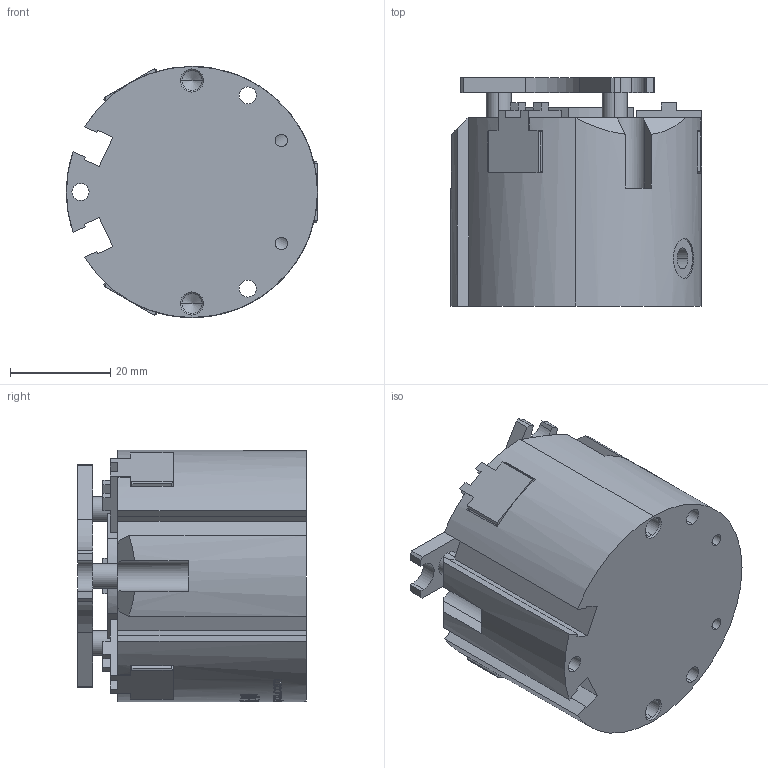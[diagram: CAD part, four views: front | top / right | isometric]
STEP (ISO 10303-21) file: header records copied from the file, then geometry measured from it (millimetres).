
FILE_DESCRIPTION (( 'STEP AP203' ), '1' );
FILE_NAME ('MAC3-50-P-原始檔-組合-W106.04.13.STEP', '2017-04-13T08:02:00', ( 'DanyaoCAD' ), ( '' ), 'SwSTEP 2.0', 'SolidWorks 2016', '' );
FILE_SCHEMA (( 'CONFIG_CONTROL_DESIGN' ));
Length unit declared in the file: millimetre
Products named in the file (6): Griffa; Coperchio; Spintore; Piattello; Corpo; MAC3-50-P-原始檔-組合-W106.04.13
Assembly tree (7 placements, depth 2):
  MAC3-50-P-原始檔-組合-W106.04.13
    Griffa  x3
    Coperchio
    Spintore
    Piattello
    Corpo
Bounding box: 50 x 45.5 x 50 mm (x, y, z)
Volume: 69679.8 mm3; surface area: 23494.1 mm2
Topology: 7 solids, 7 shells, 1126 faces, 3136 edges, 2064 vertices
Faces by surface type: bspline 665, plane 287, cylinder 138, cone 36
Entity records: 73762 total; most frequent: CARTESIAN_POINT 52067, ORIENTED_EDGE 5808, EDGE_CURVE 2904, B_SPLINE_CURVE_WITH_KNOTS 2045, VERTEX_POINT 1928, DIRECTION 1899, EDGE_LOOP 1126, ADVANCED_FACE 1048
